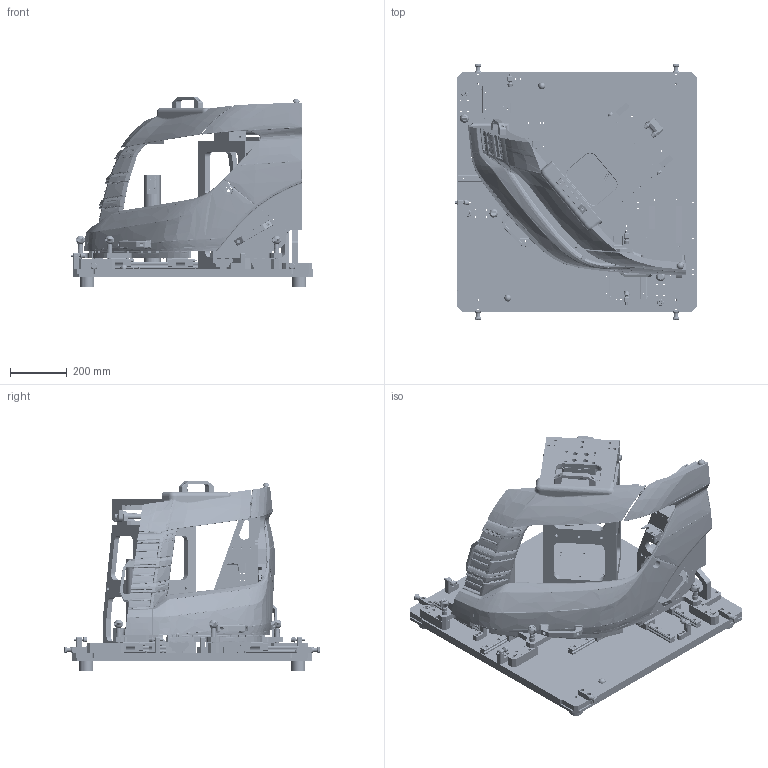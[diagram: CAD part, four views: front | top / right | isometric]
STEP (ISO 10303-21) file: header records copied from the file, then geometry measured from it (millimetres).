
FILE_DESCRIPTION(('CATIA V5 STEP','CAx-IF Rec.Pracs.--- Model Styling and Organization---1.2---2011-12-15'),'2;1');
FILE_NAME('C:\Users\DLXPLPG\Desktop\BEMARTECH\69-37D350624_____K00_POS___________VN54X_BC_SCHEINWERFER_ALLCATPART.stp','2016-06-20T14:29:56+00:00',('none'),('Volkswagen AG'),'CATIA Version 5-6 Release 2014 SP4 HF33','CATIA V5 STEP AP214','none');
FILE_SCHEMA(('AUTOMOTIVE_DESIGN { 1 0 10303 214 1 1 1 1 }'));
Products named in the file (1): 69-37D350624_____K00_POS___________VN54X_BC_SCHEINWERFER_AllCATPart
Bounding box: 857.5 x 902 x 672 mm (x, y, z)
Volume: 47957844.2 mm3; surface area: 5709846.4 mm2
Topology: 125 solids, 129 shells, 8157 faces, 20609 edges, 12820 vertices
Faces by surface type: cylinder 2937, plane 2462, bspline 1241, cone 1047, extrusion 219, torus 184, sphere 67
Entity records: 354248 total; most frequent: CARTESIAN_POINT 182685, ORIENTED_EDGE 40490, DIRECTION 23930, EDGE_CURVE 20246, VERTEX_POINT 12820, AXIS2_PLACEMENT_3D 11033, EDGE_LOOP 9775, VECTOR 8472
